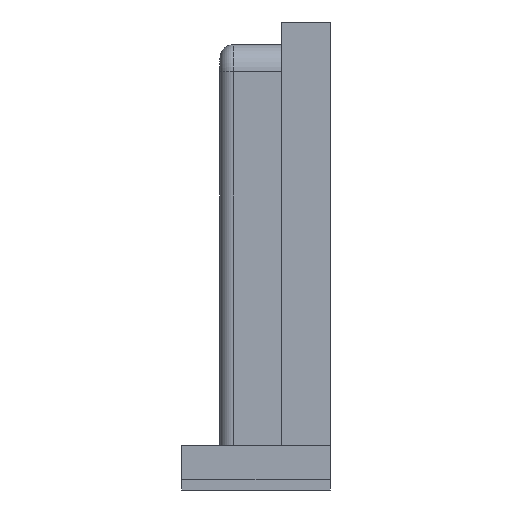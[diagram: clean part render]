
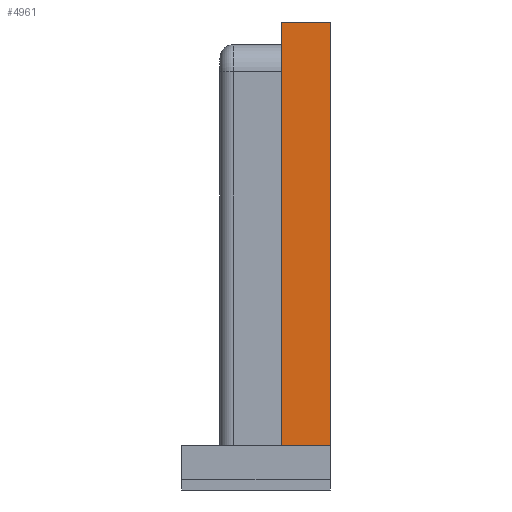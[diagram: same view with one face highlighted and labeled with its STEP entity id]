
A CAD part, left-side view. The second image highlights one B-rep face of the part: STEP entity #4961.
In plain terms, the highlighted planar face has unit normal (-1, 0, 0).
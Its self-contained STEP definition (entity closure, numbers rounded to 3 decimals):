
#66 = PLANE('',#67);
#67 = AXIS2_PLACEMENT_3D('',#68,#69,#70);
#68 = CARTESIAN_POINT('',(-127.,-21.825,0.));
#69 = DIRECTION('',(0.,1.,0.));
#70 = DIRECTION('',(0.,0.,1.));
#323 = VERTEX_POINT('',#324);
#324 = CARTESIAN_POINT('',(-73.9,-21.825,13.));
#338 = PLANE('',#339);
#339 = AXIS2_PLACEMENT_3D('',#340,#341,#342);
#340 = CARTESIAN_POINT('',(-107.,-21.825,13.));
#341 = DIRECTION('',(0.,0.,1.));
#342 = DIRECTION('',(1.,0.,0.));
#350 = EDGE_CURVE('',#323,#351,#353,.T.);
#351 = VERTEX_POINT('',#352);
#352 = CARTESIAN_POINT('',(-73.9,-21.825,137.2));
#353 = SURFACE_CURVE('',#354,(#358,#365),.PCURVE_S1.);
#354 = LINE('',#355,#356);
#355 = CARTESIAN_POINT('',(-73.9,-21.825,3.));
#356 = VECTOR('',#357,1.);
#357 = DIRECTION('',(0.,0.,1.));
#358 = PCURVE('',#66,#359);
#359 = DEFINITIONAL_REPRESENTATION('',(#360),#364);
#360 = LINE('',#361,#362);
#361 = CARTESIAN_POINT('',(3.,53.1));
#362 = VECTOR('',#363,1.);
#363 = DIRECTION('',(1.,0.));
#364 = ( GEOMETRIC_REPRESENTATION_CONTEXT(2) 
PARAMETRIC_REPRESENTATION_CONTEXT() REPRESENTATION_CONTEXT('2D SPACE',''
  ) );
#365 = PCURVE('',#366,#371);
#366 = PLANE('',#367);
#367 = AXIS2_PLACEMENT_3D('',#368,#369,#370);
#368 = CARTESIAN_POINT('',(-73.9,-21.825,3.));
#369 = DIRECTION('',(1.,0.,0.));
#370 = DIRECTION('',(0.,0.,1.));
#371 = DEFINITIONAL_REPRESENTATION('',(#372),#376);
#372 = LINE('',#373,#374);
#373 = CARTESIAN_POINT('',(0.,0.));
#374 = VECTOR('',#375,1.);
#375 = DIRECTION('',(1.,0.));
#376 = ( GEOMETRIC_REPRESENTATION_CONTEXT(2) 
PARAMETRIC_REPRESENTATION_CONTEXT() REPRESENTATION_CONTEXT('2D SPACE',''
  ) );
#394 = PLANE('',#395);
#395 = AXIS2_PLACEMENT_3D('',#396,#397,#398);
#396 = CARTESIAN_POINT('',(-73.9,-21.825,137.2));
#397 = DIRECTION('',(0.,0.,1.));
#398 = DIRECTION('',(1.,0.,0.));
#4374 = VERTEX_POINT('',#4375);
#4375 = CARTESIAN_POINT('',(-73.9,-19.425,13.));
#4389 = PLANE('',#4390);
#4390 = AXIS2_PLACEMENT_3D('',#4391,#4392,#4393);
#4391 = CARTESIAN_POINT('',(-107.,-19.425,3.));
#4392 = DIRECTION('',(0.,1.,0.));
#4393 = DIRECTION('',(0.,0.,1.));
#4558 = EDGE_CURVE('',#323,#4374,#4559,.T.);
#4559 = SURFACE_CURVE('',#4560,(#4564,#4570),.PCURVE_S1.);
#4560 = LINE('',#4561,#4562);
#4561 = CARTESIAN_POINT('',(-73.9,-21.825,13.));
#4562 = VECTOR('',#4563,1.);
#4563 = DIRECTION('',(0.,1.,0.));
#4564 = PCURVE('',#338,#4565);
#4565 = DEFINITIONAL_REPRESENTATION('',(#4566),#4569);
#4566 = B_SPLINE_CURVE_WITH_KNOTS('',1,(#4567,#4568),.UNSPECIFIED.,.F.,
  .F.,(2,2),(0.,2.4),.PIECEWISE_BEZIER_KNOTS.);
#4567 = CARTESIAN_POINT('',(33.1,0.));
#4568 = CARTESIAN_POINT('',(33.1,2.4));
#4569 = ( GEOMETRIC_REPRESENTATION_CONTEXT(2) 
PARAMETRIC_REPRESENTATION_CONTEXT() REPRESENTATION_CONTEXT('2D SPACE',''
  ) );
#4570 = PCURVE('',#366,#4571);
#4571 = DEFINITIONAL_REPRESENTATION('',(#4572),#4576);
#4572 = LINE('',#4573,#4574);
#4573 = CARTESIAN_POINT('',(10.,0.));
#4574 = VECTOR('',#4575,1.);
#4575 = DIRECTION('',(0.,-1.));
#4576 = ( GEOMETRIC_REPRESENTATION_CONTEXT(2) 
PARAMETRIC_REPRESENTATION_CONTEXT() REPRESENTATION_CONTEXT('2D SPACE',''
  ) );
#4628 = PLANE('',#4629);
#4629 = AXIS2_PLACEMENT_3D('',#4630,#4631,#4632);
#4630 = CARTESIAN_POINT('',(-127.,-21.825,3.));
#4631 = DIRECTION('',(0.,0.,1.));
#4632 = DIRECTION('',(1.,0.,0.));
#4891 = VERTEX_POINT('',#4892);
#4892 = CARTESIAN_POINT('',(-73.9,-7.425,137.2));
#4906 = PLANE('',#4907);
#4907 = AXIS2_PLACEMENT_3D('',#4908,#4909,#4910);
#4908 = CARTESIAN_POINT('',(-73.9,-7.425,3.));
#4909 = DIRECTION('',(0.,1.,0.));
#4910 = DIRECTION('',(0.,0.,1.));
#4918 = EDGE_CURVE('',#4891,#351,#4919,.T.);
#4919 = SURFACE_CURVE('',#4920,(#4924,#4931),.PCURVE_S1.);
#4920 = LINE('',#4921,#4922);
#4921 = CARTESIAN_POINT('',(-73.9,-7.425,137.2));
#4922 = VECTOR('',#4923,1.);
#4923 = DIRECTION('',(0.,-1.,0.));
#4924 = PCURVE('',#394,#4925);
#4925 = DEFINITIONAL_REPRESENTATION('',(#4926),#4930);
#4926 = LINE('',#4927,#4928);
#4927 = CARTESIAN_POINT('',(0.,14.4));
#4928 = VECTOR('',#4929,1.);
#4929 = DIRECTION('',(0.,-1.));
#4930 = ( GEOMETRIC_REPRESENTATION_CONTEXT(2) 
PARAMETRIC_REPRESENTATION_CONTEXT() REPRESENTATION_CONTEXT('2D SPACE',''
  ) );
#4931 = PCURVE('',#366,#4932);
#4932 = DEFINITIONAL_REPRESENTATION('',(#4933),#4937);
#4933 = LINE('',#4934,#4935);
#4934 = CARTESIAN_POINT('',(134.2,-14.4));
#4935 = VECTOR('',#4936,1.);
#4936 = DIRECTION('',(0.,1.));
#4937 = ( GEOMETRIC_REPRESENTATION_CONTEXT(2) 
PARAMETRIC_REPRESENTATION_CONTEXT() REPRESENTATION_CONTEXT('2D SPACE',''
  ) );
#4961 = ADVANCED_FACE('',(#4962),#366,.F.);
#4962 = FACE_BOUND('',#4963,.F.);
#4963 = EDGE_LOOP('',(#4964,#4965,#4966,#4988,#5011,#5032));
#4964 = ORIENTED_EDGE('',*,*,#350,.F.);
#4965 = ORIENTED_EDGE('',*,*,#4558,.T.);
#4966 = ORIENTED_EDGE('',*,*,#4967,.T.);
#4967 = EDGE_CURVE('',#4374,#4968,#4970,.T.);
#4968 = VERTEX_POINT('',#4969);
#4969 = CARTESIAN_POINT('',(-73.9,-19.425,3.));
#4970 = SURFACE_CURVE('',#4971,(#4975,#4982),.PCURVE_S1.);
#4971 = LINE('',#4972,#4973);
#4972 = CARTESIAN_POINT('',(-73.9,-19.425,3.));
#4973 = VECTOR('',#4974,1.);
#4974 = DIRECTION('',(0.,0.,-1.));
#4975 = PCURVE('',#366,#4976);
#4976 = DEFINITIONAL_REPRESENTATION('',(#4977),#4981);
#4977 = LINE('',#4978,#4979);
#4978 = CARTESIAN_POINT('',(0.,-2.4));
#4979 = VECTOR('',#4980,1.);
#4980 = DIRECTION('',(-1.,0.));
#4981 = ( GEOMETRIC_REPRESENTATION_CONTEXT(2) 
PARAMETRIC_REPRESENTATION_CONTEXT() REPRESENTATION_CONTEXT('2D SPACE',''
  ) );
#4982 = PCURVE('',#4389,#4983);
#4983 = DEFINITIONAL_REPRESENTATION('',(#4984),#4987);
#4984 = B_SPLINE_CURVE_WITH_KNOTS('',1,(#4985,#4986),.UNSPECIFIED.,.F.,
  .F.,(2,2),(-134.2,0.),.PIECEWISE_BEZIER_KNOTS.);
#4985 = CARTESIAN_POINT('',(134.2,33.1));
#4986 = CARTESIAN_POINT('',(0.,33.1));
#4987 = ( GEOMETRIC_REPRESENTATION_CONTEXT(2) 
PARAMETRIC_REPRESENTATION_CONTEXT() REPRESENTATION_CONTEXT('2D SPACE',''
  ) );
#4988 = ORIENTED_EDGE('',*,*,#4989,.T.);
#4989 = EDGE_CURVE('',#4968,#4990,#4992,.T.);
#4990 = VERTEX_POINT('',#4991);
#4991 = CARTESIAN_POINT('',(-73.9,-7.425,3.));
#4992 = SURFACE_CURVE('',#4993,(#4997,#5004),.PCURVE_S1.);
#4993 = LINE('',#4994,#4995);
#4994 = CARTESIAN_POINT('',(-73.9,-21.825,3.));
#4995 = VECTOR('',#4996,1.);
#4996 = DIRECTION('',(0.,1.,0.));
#4997 = PCURVE('',#366,#4998);
#4998 = DEFINITIONAL_REPRESENTATION('',(#4999),#5003);
#4999 = LINE('',#5000,#5001);
#5000 = CARTESIAN_POINT('',(0.,0.));
#5001 = VECTOR('',#5002,1.);
#5002 = DIRECTION('',(0.,-1.));
#5003 = ( GEOMETRIC_REPRESENTATION_CONTEXT(2) 
PARAMETRIC_REPRESENTATION_CONTEXT() REPRESENTATION_CONTEXT('2D SPACE',''
  ) );
#5004 = PCURVE('',#4628,#5005);
#5005 = DEFINITIONAL_REPRESENTATION('',(#5006),#5010);
#5006 = LINE('',#5007,#5008);
#5007 = CARTESIAN_POINT('',(53.1,0.));
#5008 = VECTOR('',#5009,1.);
#5009 = DIRECTION('',(0.,1.));
#5010 = ( GEOMETRIC_REPRESENTATION_CONTEXT(2) 
PARAMETRIC_REPRESENTATION_CONTEXT() REPRESENTATION_CONTEXT('2D SPACE',''
  ) );
#5011 = ORIENTED_EDGE('',*,*,#5012,.T.);
#5012 = EDGE_CURVE('',#4990,#4891,#5013,.T.);
#5013 = SURFACE_CURVE('',#5014,(#5018,#5025),.PCURVE_S1.);
#5014 = LINE('',#5015,#5016);
#5015 = CARTESIAN_POINT('',(-73.9,-7.425,3.));
#5016 = VECTOR('',#5017,1.);
#5017 = DIRECTION('',(0.,0.,1.));
#5018 = PCURVE('',#366,#5019);
#5019 = DEFINITIONAL_REPRESENTATION('',(#5020),#5024);
#5020 = LINE('',#5021,#5022);
#5021 = CARTESIAN_POINT('',(0.,-14.4));
#5022 = VECTOR('',#5023,1.);
#5023 = DIRECTION('',(1.,0.));
#5024 = ( GEOMETRIC_REPRESENTATION_CONTEXT(2) 
PARAMETRIC_REPRESENTATION_CONTEXT() REPRESENTATION_CONTEXT('2D SPACE',''
  ) );
#5025 = PCURVE('',#4906,#5026);
#5026 = DEFINITIONAL_REPRESENTATION('',(#5027),#5031);
#5027 = LINE('',#5028,#5029);
#5028 = CARTESIAN_POINT('',(0.,0.));
#5029 = VECTOR('',#5030,1.);
#5030 = DIRECTION('',(1.,0.));
#5031 = ( GEOMETRIC_REPRESENTATION_CONTEXT(2) 
PARAMETRIC_REPRESENTATION_CONTEXT() REPRESENTATION_CONTEXT('2D SPACE',''
  ) );
#5032 = ORIENTED_EDGE('',*,*,#4918,.T.);
